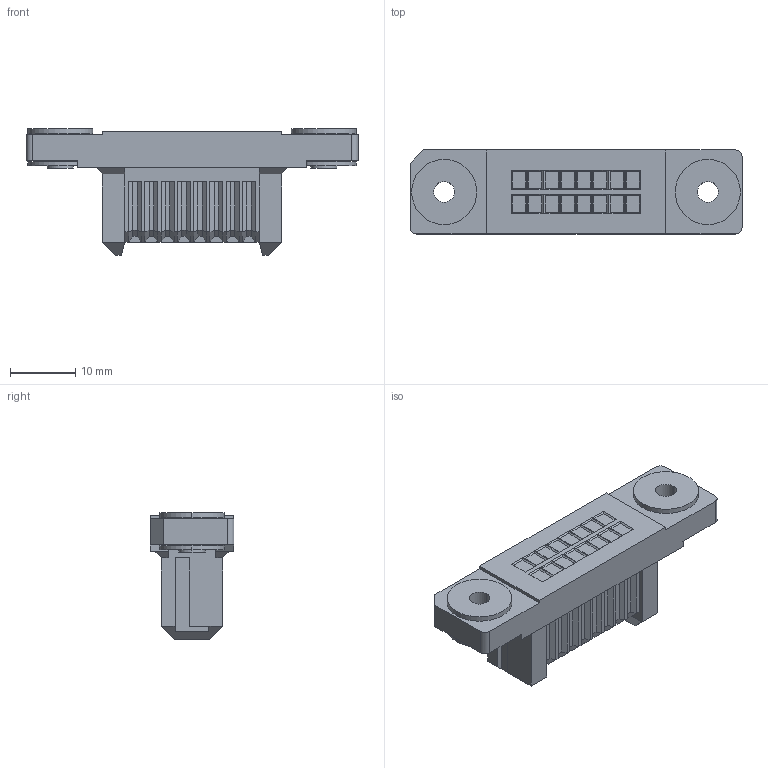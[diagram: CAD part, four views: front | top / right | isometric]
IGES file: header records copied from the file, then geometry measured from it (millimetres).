
Start section: Elysium IGES Interface
Bounding box: 51 x 12.9 x 19.45 mm (x, y, z)
Volume: 5781.9 mm3; surface area: 3715.3 mm2
Topology: 1 solids, 1 shells, 376 faces, 894 edges, 546 vertices
Faces by surface type: bspline 376
